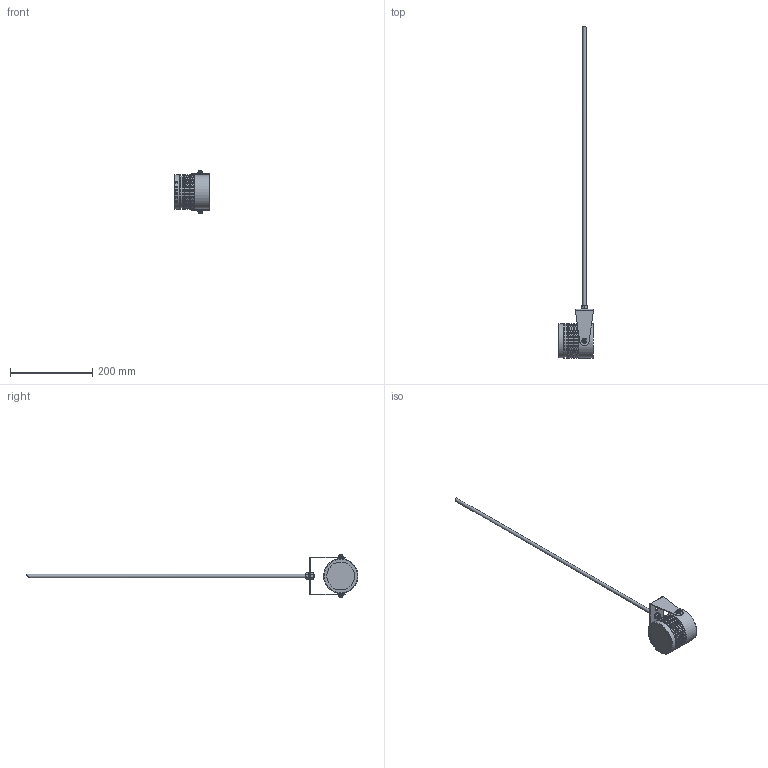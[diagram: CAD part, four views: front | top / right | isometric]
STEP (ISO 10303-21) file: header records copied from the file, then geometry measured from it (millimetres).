
FILE_DESCRIPTION(('STEP AP203'), '1');
FILE_NAME('WR 12_20 S íà êîëûøêå', '', ('UNSPECIFIED'), ('UNSPECIFIED'), 'ASCON STEP Converter 1.3', 'ASCON Math Kernel', '');
FILE_SCHEMA(('CONFIG_CONTROL_DESIGN'));
Length unit declared in the file: millimetre
Bounding box: 84.9 x 806.74 x 104.2 mm (x, y, z)
Volume: 250142.6 mm3; surface area: 104397 mm2
Topology: 1 solids, 1 shells, 170 faces, 390 edges, 245 vertices
Faces by surface type: plane 83, cylinder 53, cone 26, torus 6, sphere 2
Full cylindrical faces by diameter (mm): 4.917 x2, 6 x2, 6.4 x2, 6.6 x2, 6.7 x1, 7 x2, 8 x2, 12 x2, 16 x2, 18 x2, 62.376 x1, 67.7 x1, 68 x1, 72 x1, 78 x1, 78.376 x1, 79.5 x6, 83.5 x8
Entity records: 7918 total; most frequent: CARTESIAN_POINT 2974, DIRECTION 734, ORIENTED_EDGE 626, AXIS2_PLACEMENT_3D 313, EDGE_CURVE 313, EDGE_LOOP 278, VERTEX_POINT 243, FACE_BOUND 182
